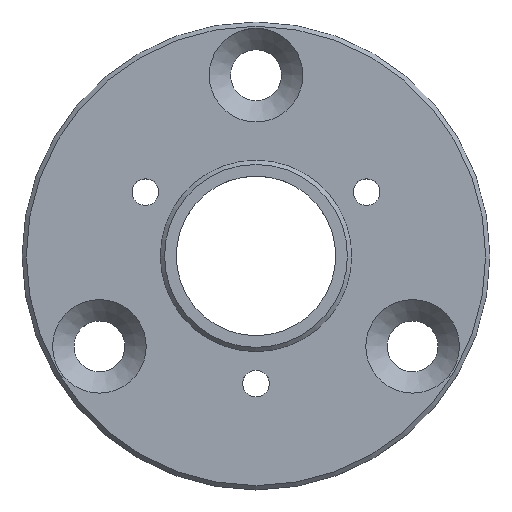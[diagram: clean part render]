
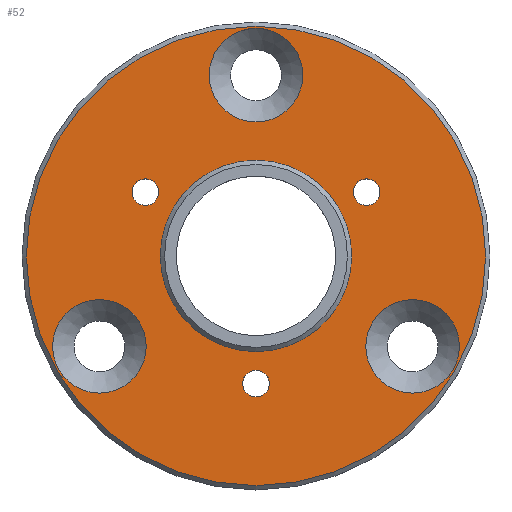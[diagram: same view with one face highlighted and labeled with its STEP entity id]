
A CAD part, top view. The second image highlights one B-rep face of the part: STEP entity #52.
In plain terms, the highlighted planar face has unit normal (0, 0, 1).
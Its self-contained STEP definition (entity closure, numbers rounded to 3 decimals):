
#44=PLANE('',#384);
#52=ADVANCED_FACE('',(#102,#103,#104,#105,#106,#107,#108,#109),#44,.T.);
#102=FACE_BOUND('',#162,.T.);
#103=FACE_BOUND('',#163,.T.);
#104=FACE_BOUND('',#164,.T.);
#105=FACE_BOUND('',#165,.T.);
#106=FACE_BOUND('',#166,.T.);
#107=FACE_BOUND('',#167,.T.);
#108=FACE_BOUND('',#168,.T.);
#109=FACE_BOUND('',#169,.T.);
#162=EDGE_LOOP('',(#222));
#163=EDGE_LOOP('',(#223));
#164=EDGE_LOOP('',(#224));
#165=EDGE_LOOP('',(#225));
#166=EDGE_LOOP('',(#226));
#167=EDGE_LOOP('',(#227));
#168=EDGE_LOOP('',(#228));
#169=EDGE_LOOP('',(#229));
#222=ORIENTED_EDGE('',*,*,#309,.T.);
#223=ORIENTED_EDGE('',*,*,#310,.T.);
#224=ORIENTED_EDGE('',*,*,#311,.T.);
#225=ORIENTED_EDGE('',*,*,#312,.T.);
#226=ORIENTED_EDGE('',*,*,#313,.T.);
#227=ORIENTED_EDGE('',*,*,#314,.T.);
#228=ORIENTED_EDGE('',*,*,#315,.T.);
#229=ORIENTED_EDGE('',*,*,#308,.F.);
#278=VERTEX_POINT('',#557);
#279=VERTEX_POINT('',#560);
#280=VERTEX_POINT('',#562);
#281=VERTEX_POINT('',#564);
#282=VERTEX_POINT('',#566);
#283=VERTEX_POINT('',#568);
#284=VERTEX_POINT('',#570);
#285=VERTEX_POINT('',#572);
#308=EDGE_CURVE('',#278,#278,#338,.T.);
#309=EDGE_CURVE('',#279,#279,#339,.T.);
#310=EDGE_CURVE('',#280,#280,#340,.T.);
#311=EDGE_CURVE('',#281,#281,#341,.T.);
#312=EDGE_CURVE('',#282,#282,#342,.T.);
#313=EDGE_CURVE('',#283,#283,#343,.T.);
#314=EDGE_CURVE('',#284,#284,#344,.T.);
#315=EDGE_CURVE('',#285,#285,#345,.T.);
#338=CIRCLE('',#375,4.5);
#339=CIRCLE('',#377,2.2);
#340=CIRCLE('',#378,2.2);
#341=CIRCLE('',#379,2.2);
#342=CIRCLE('',#380,0.625);
#343=CIRCLE('',#381,0.625);
#344=CIRCLE('',#382,0.625);
#345=CIRCLE('',#383,10.8);
#375=AXIS2_PLACEMENT_3D('',#556,#453,#454);
#377=AXIS2_PLACEMENT_3D('',#559,#457,#458);
#378=AXIS2_PLACEMENT_3D('',#561,#459,#460);
#379=AXIS2_PLACEMENT_3D('',#563,#461,#462);
#380=AXIS2_PLACEMENT_3D('',#565,#463,#464);
#381=AXIS2_PLACEMENT_3D('',#567,#465,#466);
#382=AXIS2_PLACEMENT_3D('',#569,#467,#468);
#383=AXIS2_PLACEMENT_3D('',#571,#469,#470);
#384=AXIS2_PLACEMENT_3D('',#573,#471,#472);
#453=DIRECTION('',(0.,0.,1.));
#454=DIRECTION('',(1.,0.,0.));
#457=DIRECTION('',(0.,0.,-1.));
#458=DIRECTION('',(0.5,0.866,0.));
#459=DIRECTION('',(0.,0.,-1.));
#460=DIRECTION('',(0.5,-0.866,0.));
#461=DIRECTION('',(0.,0.,-1.));
#462=DIRECTION('',(-1.,0.,0.));
#463=DIRECTION('',(0.,0.,-1.));
#464=DIRECTION('',(0.5,0.866,0.));
#465=DIRECTION('',(0.,0.,-1.));
#466=DIRECTION('',(0.5,-0.866,0.));
#467=DIRECTION('',(0.,0.,-1.));
#468=DIRECTION('',(-1.,0.,0.));
#469=DIRECTION('',(0.,0.,1.));
#470=DIRECTION('',(1.,0.,0.));
#471=DIRECTION('',(0.,0.,1.));
#472=DIRECTION('',(1.,0.,0.));
#556=CARTESIAN_POINT('',(0.,0.,2.2));
#557=CARTESIAN_POINT('',(4.5,0.,2.2));
#559=CARTESIAN_POINT('',(7.361,-4.25,2.2));
#560=CARTESIAN_POINT('',(8.461,-2.345,2.2));
#561=CARTESIAN_POINT('',(-7.361,-4.25,2.2));
#562=CARTESIAN_POINT('',(-6.261,-6.155,2.2));
#563=CARTESIAN_POINT('',(0.,8.5,2.2));
#564=CARTESIAN_POINT('',(-2.2,8.5,2.2));
#565=CARTESIAN_POINT('',(-5.196,3.,2.2));
#566=CARTESIAN_POINT('',(-4.884,3.541,2.2));
#567=CARTESIAN_POINT('',(5.196,3.,2.2));
#568=CARTESIAN_POINT('',(5.509,2.459,2.2));
#569=CARTESIAN_POINT('',(0.,-6.,2.2));
#570=CARTESIAN_POINT('',(-0.625,-6.,2.2));
#571=CARTESIAN_POINT('',(0.,0.,2.2));
#572=CARTESIAN_POINT('',(10.8,0.,2.2));
#573=CARTESIAN_POINT('',(0.,0.,2.2));
